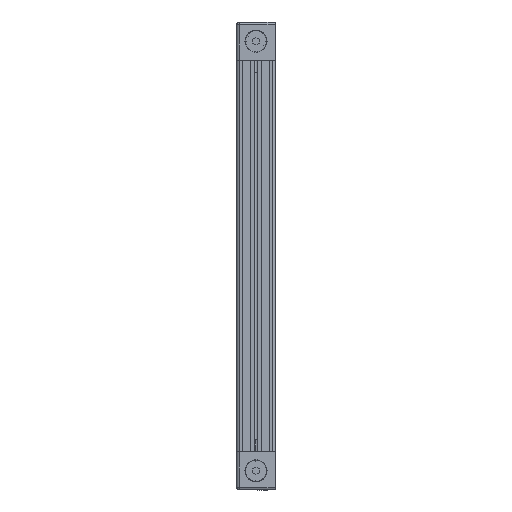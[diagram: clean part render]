
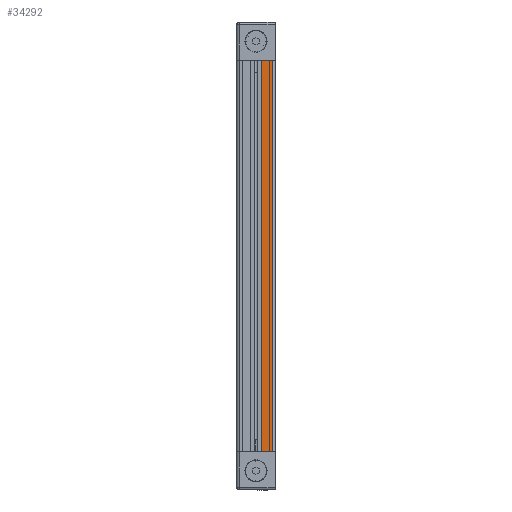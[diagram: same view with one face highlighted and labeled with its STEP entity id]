
A CAD part, left-side view. The second image highlights one B-rep face of the part: STEP entity #34292.
In plain terms, the highlighted planar face has unit normal (-1, 0, 0) as drawn and (0, 1, 0) by its records, which use the part's own axes.
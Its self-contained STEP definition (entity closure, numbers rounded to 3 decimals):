
#3739 = ORIENTED_EDGE ( 'NONE', *, *, #63907, .T. ) ;
#5161 = LINE ( 'NONE', #74673, #27538 ) ;
#8428 = EDGE_CURVE ( 'NONE', #62324, #41333, #68124, .T. ) ;
#9774 = CARTESIAN_POINT ( 'NONE',  ( -306., 15., 13. ) ) ;
#11790 = ORIENTED_EDGE ( 'NONE', *, *, #55806, .F. ) ;
#14050 = AXIS2_PLACEMENT_3D ( 'NONE', #67714, #15107, #14354 ) ;
#14354 = DIRECTION ( 'NONE',  ( 0., 0., 1. ) ) ;
#14369 = DIRECTION ( 'NONE',  ( 1., 0., 0. ) ) ;
#15107 = DIRECTION ( 'NONE',  ( 0., 1., 0. ) ) ;
#15661 = LINE ( 'NONE', #26449, #36286 ) ;
#19721 = LINE ( 'NONE', #66988, #62848 ) ;
#19880 = EDGE_LOOP ( 'NONE', ( #22814, #11790, #29327, #3739 ) ) ;
#22712 = CARTESIAN_POINT ( 'NONE',  ( -306., 15., 13. ) ) ;
#22814 = ORIENTED_EDGE ( 'NONE', *, *, #58711, .F. ) ;
#26449 = CARTESIAN_POINT ( 'NONE',  ( 0., 15., 13. ) ) ;
#27538 = VECTOR ( 'NONE', #38914, 1000. ) ;
#29327 = ORIENTED_EDGE ( 'NONE', *, *, #8428, .T. ) ;
#32031 = FACE_OUTER_BOUND ( 'NONE', #19880, .T. ) ;
#33847 = CARTESIAN_POINT ( 'NONE',  ( -306., 15., 4. ) ) ;
#34292 = ADVANCED_FACE ( 'NONE', ( #32031 ), #55015, .T. ) ;
#36286 = VECTOR ( 'NONE', #39063, 1000. ) ;
#38914 = DIRECTION ( 'NONE',  ( 1., 0., 0. ) ) ;
#39063 = DIRECTION ( 'NONE',  ( 0., 0., 1. ) ) ;
#40172 = CARTESIAN_POINT ( 'NONE',  ( 0., 15., 13. ) ) ;
#41333 = VERTEX_POINT ( 'NONE', #22712 ) ;
#42813 = VERTEX_POINT ( 'NONE', #64754 ) ;
#42917 = VECTOR ( 'NONE', #43550, 1000. ) ;
#43550 = DIRECTION ( 'NONE',  ( 0., 0., 1. ) ) ;
#55015 = PLANE ( 'NONE',  #14050 ) ;
#55806 = EDGE_CURVE ( 'NONE', #62324, #42813, #19721, .T. ) ;
#58711 = EDGE_CURVE ( 'NONE', #42813, #64735, #15661, .T. ) ;
#62324 = VERTEX_POINT ( 'NONE', #33847 ) ;
#62848 = VECTOR ( 'NONE', #14369, 1000. ) ;
#63907 = EDGE_CURVE ( 'NONE', #41333, #64735, #5161, .T. ) ;
#64735 = VERTEX_POINT ( 'NONE', #40172 ) ;
#64754 = CARTESIAN_POINT ( 'NONE',  ( 0., 15., 4. ) ) ;
#66988 = CARTESIAN_POINT ( 'NONE',  ( -306., 15., 4. ) ) ;
#67714 = CARTESIAN_POINT ( 'NONE',  ( -306., 15., 13. ) ) ;
#68124 = LINE ( 'NONE', #9774, #42917 ) ;
#74673 = CARTESIAN_POINT ( 'NONE',  ( -306., 15., 13. ) ) ;
